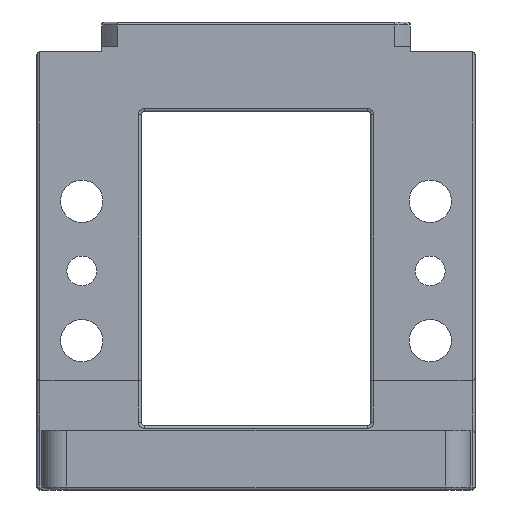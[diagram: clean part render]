
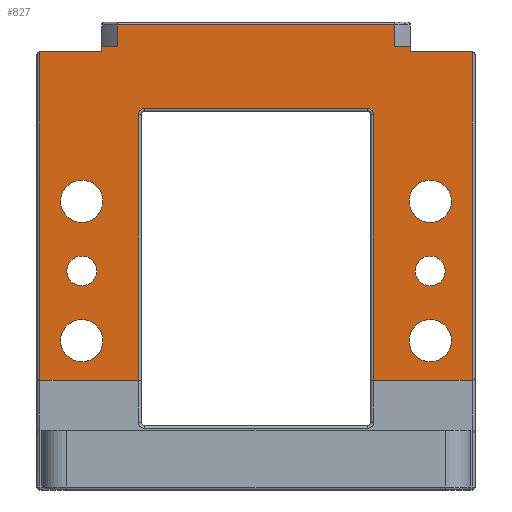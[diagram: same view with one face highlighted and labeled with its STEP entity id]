
A CAD part, front view. The second image highlights one B-rep face of the part: STEP entity #827.
In plain terms, the highlighted planar face has unit normal (0, -1, 0).
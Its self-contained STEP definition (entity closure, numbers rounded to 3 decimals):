
#827=ADVANCED_FACE('',(#1461,#1462,#1463,#1464,#1465,#1466,#1467),#1086,
 .F.);
#1086=PLANE('',#5258);
#1223=CIRCLE('',#5178,3.);
#1225=CIRCLE('',#5181,3.);
#1243=CIRCLE('',#5222,4.25);
#1246=CIRCLE('',#5227,4.25);
#1249=CIRCLE('',#5232,4.25);
#1253=CIRCLE('',#5238,4.25);
#1258=CIRCLE('',#5256,1.2);
#1259=CIRCLE('',#5257,1.2);
#1461=FACE_BOUND('',#1632,.T.);
#1462=FACE_BOUND('',#1633,.T.);
#1463=FACE_BOUND('',#1634,.T.);
#1464=FACE_BOUND('',#1635,.T.);
#1465=FACE_BOUND('',#1636,.T.);
#1466=FACE_BOUND('',#1637,.T.);
#1467=FACE_BOUND('',#1638,.T.);
#1632=EDGE_LOOP('',(#2134,#2135,#2136,#2137,#2138,#2139,#2140,#2141,#2142,
#2143,#2144,#2145,#2146,#2147,#2148,#2149,#2150,#2151));
#1633=EDGE_LOOP('',(#2152));
#1634=EDGE_LOOP('',(#2153));
#1635=EDGE_LOOP('',(#2154));
#1636=EDGE_LOOP('',(#2155));
#1637=EDGE_LOOP('',(#2156));
#1638=EDGE_LOOP('',(#2157));
#2134=ORIENTED_EDGE('',*,*,#3940,.T.);
#2135=ORIENTED_EDGE('',*,*,#3941,.T.);
#2136=ORIENTED_EDGE('',*,*,#3942,.T.);
#2137=ORIENTED_EDGE('',*,*,#3943,.T.);
#2138=ORIENTED_EDGE('',*,*,#3944,.F.);
#2139=ORIENTED_EDGE('',*,*,#3945,.T.);
#2140=ORIENTED_EDGE('',*,*,#3946,.F.);
#2141=ORIENTED_EDGE('',*,*,#3947,.T.);
#2142=ORIENTED_EDGE('',*,*,#3948,.T.);
#2143=ORIENTED_EDGE('',*,*,#3949,.T.);
#2144=ORIENTED_EDGE('',*,*,#3899,.T.);
#2145=ORIENTED_EDGE('',*,*,#3897,.F.);
#2146=ORIENTED_EDGE('',*,*,#3950,.F.);
#2147=ORIENTED_EDGE('',*,*,#3951,.F.);
#2148=ORIENTED_EDGE('',*,*,#3952,.T.);
#2149=ORIENTED_EDGE('',*,*,#3953,.F.);
#2150=ORIENTED_EDGE('',*,*,#3954,.F.);
#2151=ORIENTED_EDGE('',*,*,#3955,.T.);
#2152=ORIENTED_EDGE('',*,*,#3854,.F.);
#2153=ORIENTED_EDGE('',*,*,#3856,.F.);
#2154=ORIENTED_EDGE('',*,*,#3874,.F.);
#2155=ORIENTED_EDGE('',*,*,#3877,.F.);
#2156=ORIENTED_EDGE('',*,*,#3880,.F.);
#2157=ORIENTED_EDGE('',*,*,#3884,.F.);
#3396=VERTEX_POINT('',#6875);
#3398=VERTEX_POINT('',#6880);
#3420=VERTEX_POINT('',#6943);
#3423=VERTEX_POINT('',#6951);
#3426=VERTEX_POINT('',#6959);
#3430=VERTEX_POINT('',#6969);
#3442=VERTEX_POINT('',#7001);
#3443=VERTEX_POINT('',#7003);
#3444=VERTEX_POINT('',#7007);
#3481=VERTEX_POINT('',#7098);
#3482=VERTEX_POINT('',#7099);
#3483=VERTEX_POINT('',#7101);
#3484=VERTEX_POINT('',#7103);
#3485=VERTEX_POINT('',#7105);
#3486=VERTEX_POINT('',#7107);
#3487=VERTEX_POINT('',#7109);
#3488=VERTEX_POINT('',#7111);
#3489=VERTEX_POINT('',#7113);
#3490=VERTEX_POINT('',#7115);
#3491=VERTEX_POINT('',#7118);
#3492=VERTEX_POINT('',#7120);
#3493=VERTEX_POINT('',#7122);
#3494=VERTEX_POINT('',#7124);
#3495=VERTEX_POINT('',#7126);
#3854=EDGE_CURVE('',#3396,#3396,#1223,.T.);
#3856=EDGE_CURVE('',#3398,#3398,#1225,.T.);
#3874=EDGE_CURVE('',#3420,#3420,#1243,.T.);
#3877=EDGE_CURVE('',#3423,#3423,#1246,.T.);
#3880=EDGE_CURVE('',#3426,#3426,#1249,.T.);
#3884=EDGE_CURVE('',#3430,#3430,#1253,.T.);
#3897=EDGE_CURVE('',#3442,#3443,#4520,.T.);
#3899=EDGE_CURVE('',#3444,#3443,#4522,.T.);
#3940=EDGE_CURVE('',#3481,#3482,#4557,.T.);
#3941=EDGE_CURVE('',#3482,#3483,#4558,.T.);
#3942=EDGE_CURVE('',#3483,#3484,#4559,.T.);
#3943=EDGE_CURVE('',#3484,#3485,#4560,.T.);
#3944=EDGE_CURVE('',#3486,#3485,#1258,.T.);
#3945=EDGE_CURVE('',#3486,#3487,#4561,.T.);
#3946=EDGE_CURVE('',#3488,#3487,#1259,.T.);
#3947=EDGE_CURVE('',#3488,#3489,#4562,.T.);
#3948=EDGE_CURVE('',#3489,#3490,#4563,.T.);
#3949=EDGE_CURVE('',#3490,#3444,#4564,.T.);
#3950=EDGE_CURVE('',#3491,#3442,#4565,.T.);
#3951=EDGE_CURVE('',#3492,#3491,#4566,.T.);
#3952=EDGE_CURVE('',#3492,#3493,#4567,.T.);
#3953=EDGE_CURVE('',#3494,#3493,#4568,.T.);
#3954=EDGE_CURVE('',#3495,#3494,#4569,.T.);
#3955=EDGE_CURVE('',#3495,#3481,#4570,.T.);
#4520=LINE('',#7002,#4811);
#4522=LINE('',#7006,#4813);
#4557=LINE('',#7097,#4848);
#4558=LINE('',#7100,#4849);
#4559=LINE('',#7102,#4850);
#4560=LINE('',#7104,#4851);
#4561=LINE('',#7108,#4852);
#4562=LINE('',#7112,#4853);
#4563=LINE('',#7114,#4854);
#4564=LINE('',#7116,#4855);
#4565=LINE('',#7117,#4856);
#4566=LINE('',#7119,#4857);
#4567=LINE('',#7121,#4858);
#4568=LINE('',#7123,#4859);
#4569=LINE('',#7125,#4860);
#4570=LINE('',#7127,#4861);
#4811=VECTOR('',#5817,1.);
#4813=VECTOR('',#5821,1.);
#4848=VECTOR('',#5878,1.);
#4849=VECTOR('',#5879,1.);
#4850=VECTOR('',#5880,1.);
#4851=VECTOR('',#5881,1.);
#4852=VECTOR('',#5884,1.);
#4853=VECTOR('',#5887,1.);
#4854=VECTOR('',#5888,1.);
#4855=VECTOR('',#5889,1.);
#4856=VECTOR('',#5890,1.);
#4857=VECTOR('',#5891,1.);
#4858=VECTOR('',#5892,1.);
#4859=VECTOR('',#5893,1.);
#4860=VECTOR('',#5894,1.);
#4861=VECTOR('',#5895,1.);
#5178=AXIS2_PLACEMENT_3D('',#6874,#5674,#5675);
#5181=AXIS2_PLACEMENT_3D('',#6879,#5680,#5681);
#5222=AXIS2_PLACEMENT_3D('',#6942,#5762,#5763);
#5227=AXIS2_PLACEMENT_3D('',#6950,#5772,#5773);
#5232=AXIS2_PLACEMENT_3D('',#6958,#5782,#5783);
#5238=AXIS2_PLACEMENT_3D('',#6968,#5794,#5795);
#5256=AXIS2_PLACEMENT_3D('',#7106,#5882,#5883);
#5257=AXIS2_PLACEMENT_3D('',#7110,#5885,#5886);
#5258=AXIS2_PLACEMENT_3D('',#7128,#5896,#5897);
#5674=DIRECTION('',(0.,-1.,0.));
#5675=DIRECTION('',(0.,0.,-1.));
#5680=DIRECTION('',(0.,-1.,0.));
#5681=DIRECTION('',(0.,0.,-1.));
#5762=DIRECTION('',(0.,-1.,0.));
#5763=DIRECTION('',(-1.,0.,0.));
#5772=DIRECTION('',(0.,-1.,0.));
#5773=DIRECTION('',(-1.,0.,0.));
#5782=DIRECTION('',(0.,-1.,0.));
#5783=DIRECTION('',(-1.,0.,0.));
#5794=DIRECTION('',(0.,-1.,0.));
#5795=DIRECTION('',(-1.,0.,0.));
#5817=DIRECTION('',(0.,0.,-1.));
#5821=DIRECTION('',(-1.,0.,0.));
#5878=DIRECTION('',(-1.,0.,0.));
#5879=DIRECTION('',(0.,0.,-1.));
#5880=DIRECTION('',(1.,0.,0.));
#5881=DIRECTION('',(0.,0.,1.));
#5882=DIRECTION('',(0.,-1.,0.));
#5883=DIRECTION('',(-1.,0.,0.));
#5884=DIRECTION('',(1.,0.,0.));
#5885=DIRECTION('',(0.,-1.,0.));
#5886=DIRECTION('',(-1.,0.,0.));
#5887=DIRECTION('',(0.,0.,-1.));
#5888=DIRECTION('',(1.,0.,0.));
#5889=DIRECTION('',(0.,0.,1.));
#5890=DIRECTION('',(1.,0.,0.));
#5891=DIRECTION('',(0.,0.,-1.));
#5892=DIRECTION('',(-1.,0.,0.));
#5893=DIRECTION('',(0.,0.,1.));
#5894=DIRECTION('',(1.,0.,0.));
#5895=DIRECTION('',(0.,0.,-1.));
#5896=DIRECTION('',(0.,1.,0.));
#5897=DIRECTION('',(1.,0.,0.));
#6874=CARTESIAN_POINT('',(-35.,-28.,37.5));
#6875=CARTESIAN_POINT('',(-35.,-28.,34.5));
#6879=CARTESIAN_POINT('',(35.,-28.,37.5));
#6880=CARTESIAN_POINT('',(35.,-28.,34.5));
#6942=CARTESIAN_POINT('',(-35.,-28.,23.5));
#6943=CARTESIAN_POINT('',(-39.25,-28.,23.5));
#6950=CARTESIAN_POINT('',(35.,-28.,23.5));
#6951=CARTESIAN_POINT('',(30.75,-28.,23.5));
#6958=CARTESIAN_POINT('',(35.,-28.,51.5));
#6959=CARTESIAN_POINT('',(30.75,-28.,51.5));
#6968=CARTESIAN_POINT('',(-35.,-28.,51.5));
#6969=CARTESIAN_POINT('',(-39.25,-28.,51.5));
#7001=CARTESIAN_POINT('',(31.,-28.,82.5));
#7002=CARTESIAN_POINT('',(31.,-28.,87.5));
#7003=CARTESIAN_POINT('',(31.,-28.,81.5));
#7006=CARTESIAN_POINT('',(43.,-28.,81.5));
#7007=CARTESIAN_POINT('',(43.4,-28.,81.5));
#7097=CARTESIAN_POINT('',(43.,-28.,81.5));
#7098=CARTESIAN_POINT('',(-31.,-28.,81.5));
#7099=CARTESIAN_POINT('',(-43.4,-28.,81.5));
#7100=CARTESIAN_POINT('',(-43.4,-28.,81.5));
#7101=CARTESIAN_POINT('',(-43.4,-28.,15.5));
#7102=CARTESIAN_POINT('',(-43.,-28.,15.5));
#7103=CARTESIAN_POINT('',(-23.6,-28.,15.5));
#7104=CARTESIAN_POINT('',(-23.6,-28.,81.5));
#7105=CARTESIAN_POINT('',(-23.6,-28.,68.9));
#7106=CARTESIAN_POINT('',(-22.4,-28.,68.9));
#7107=CARTESIAN_POINT('',(-22.4,-28.,70.1));
#7108=CARTESIAN_POINT('',(23.,-28.,70.1));
#7109=CARTESIAN_POINT('',(22.4,-28.,70.1));
#7110=CARTESIAN_POINT('',(22.4,-28.,68.9));
#7111=CARTESIAN_POINT('',(23.6,-28.,68.9));
#7112=CARTESIAN_POINT('',(23.6,-28.,15.5));
#7113=CARTESIAN_POINT('',(23.6,-28.,15.5));
#7114=CARTESIAN_POINT('',(43.,-28.,15.5));
#7115=CARTESIAN_POINT('',(43.4,-28.,15.5));
#7116=CARTESIAN_POINT('',(43.4,-28.,81.5));
#7117=CARTESIAN_POINT('',(43.,-28.,82.5));
#7118=CARTESIAN_POINT('',(27.861,-28.,82.5));
#7119=CARTESIAN_POINT('',(27.861,-28.,82.5));
#7120=CARTESIAN_POINT('',(27.861,-28.,86.9));
#7121=CARTESIAN_POINT('',(-27.861,-28.,86.9));
#7122=CARTESIAN_POINT('',(-27.861,-28.,86.9));
#7123=CARTESIAN_POINT('',(-27.861,-28.,82.5));
#7124=CARTESIAN_POINT('',(-27.861,-28.,82.5));
#7125=CARTESIAN_POINT('',(43.,-28.,82.5));
#7126=CARTESIAN_POINT('',(-31.,-28.,82.5));
#7127=CARTESIAN_POINT('',(-31.,-28.,87.5));
#7128=CARTESIAN_POINT('',(43.,-28.,81.5));
